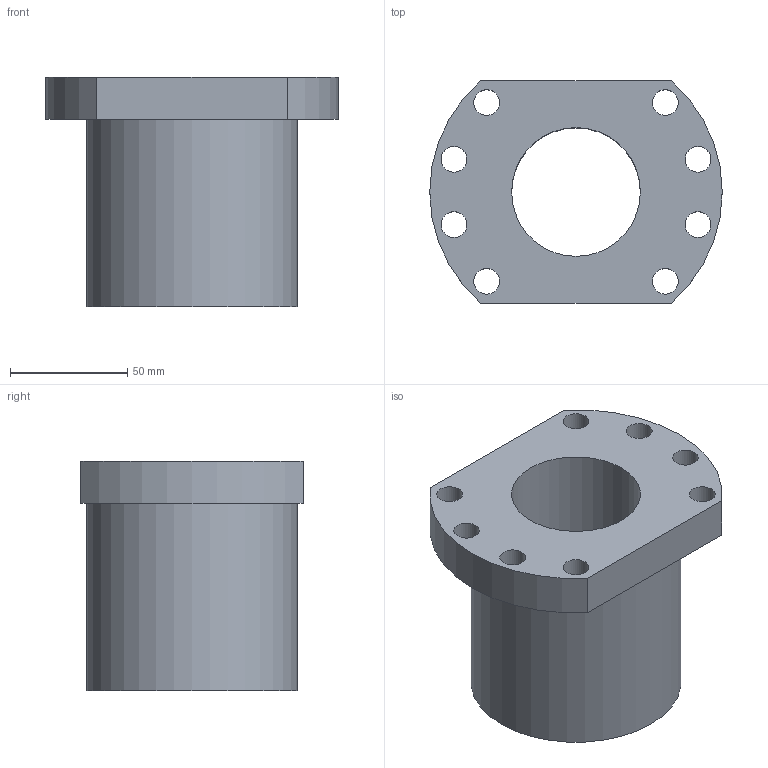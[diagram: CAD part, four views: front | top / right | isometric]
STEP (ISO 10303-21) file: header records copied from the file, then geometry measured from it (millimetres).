
FILE_DESCRIPTION(/* description */ (''),/* implementation_level */ '2;1');
FILE_NAME(/* name */ 'D:\Гайка ШВП SFU 01.000\Модели\Гайка ШВП SFU6310 L=98 01.00.stp',/* time_stamp */ '2017-08-02T08:46:57+03:00',/* author */ ('t1'),/* organization */ ('Проектная группа'),/* preprocessor_version */ 'ST-DEVELOPER v16.1',/* originating_system */ 'Autodesk Inventor 2016',/* authorisation */ 'Петров ПП');
FILE_SCHEMA (('AUTOMOTIVE_DESIGN { 1 0 10303 214 3 1 1 }'));
Length unit declared in the file: millimetre
Products named in the file (1): Гайка ШВП SFU631
0 L=98 01.00
Bounding box: 125 x 95 x 98 mm (x, y, z)
Volume: 453285.9 mm3; surface area: 66273.4 mm2
Topology: 1 solids, 1 shells, 17 faces, 51 edges, 37 vertices
Faces by surface type: cylinder 12, plane 5
Full cylindrical faces by diameter (mm): 11 x8, 55 x1, 90 x1
Entity records: 530 total; most frequent: DIRECTION 92, CARTESIAN_POINT 78, ORIENTED_EDGE 64, EDGE_LOOP 46, AXIS2_PLACEMENT_3D 42, EDGE_CURVE 32, FACE_BOUND 29, VERTEX_POINT 28
